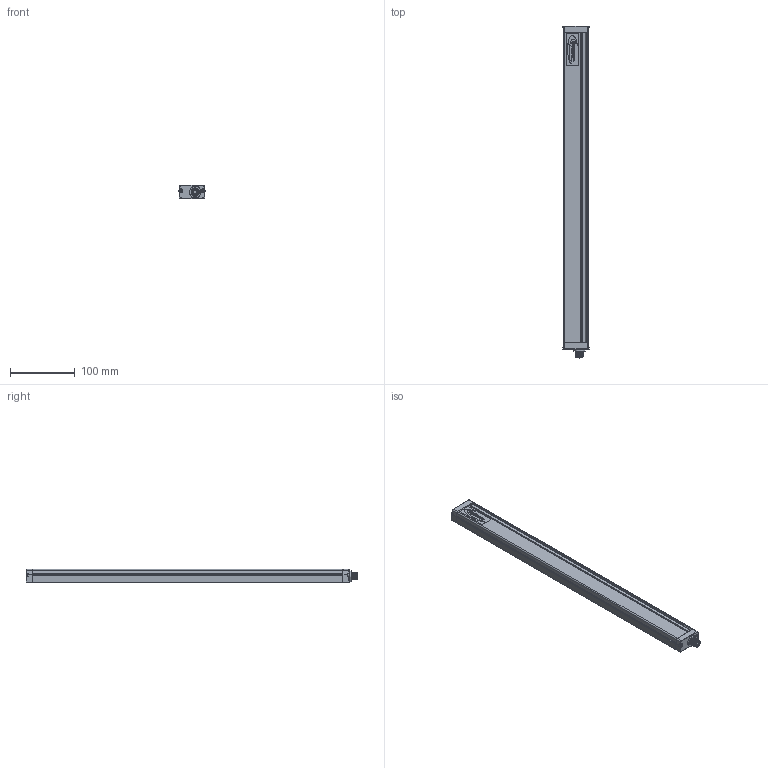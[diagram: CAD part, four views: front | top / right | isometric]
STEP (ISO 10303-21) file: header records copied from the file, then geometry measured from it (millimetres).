
FILE_DESCRIPTION(/* description */ (''),/* implementation_level */ '2;1');
FILE_NAME(/* name */ 'C:\Users\andre\SynologyDrive\Optoscan\Libreria Componenti\00 - Barriere\Barriera sorgente\Argo_480_RX.stp',/* time_stamp */ '2021-04-22T11:53:51+02:00',/* author */ ('andre'),/* organization */ (''),/* preprocessor_version */ 'ST-DEVELOPER v18',/* originating_system */ 'Autodesk Inventor 2020',/* authorisation */ '');
FILE_SCHEMA (('AUTOMOTIVE_DESIGN { 1 0 10303 214 3 1 1 }'));
Length unit declared in the file: millimetre
Products named in the file (1): Argo_480_RX
Bounding box: 40.5 x 513.3 x 20.75 mm (x, y, z)
Volume: 104893.1 mm3; surface area: 134384.7 mm2
Topology: 1 solids, 1 shells, 692 faces, 1898 edges, 1217 vertices
Faces by surface type: plane 319, cylinder 195, bspline 94, torus 70, cone 8, sphere 6
Full cylindrical faces by diameter (mm): 1 x4, 2.459 x4, 2.5 x4, 3 x4, 3.5 x4, 5.5 x4, 8 x1, 10.5 x2, 11.75 x9, 15.7 x1, 17.5 x1
Entity records: 28165 total; most frequent: CARTESIAN_POINT 10195, ORIENTED_EDGE 3778, DIRECTION 3387, EDGE_CURVE 1889, VERTEX_POINT 1217, AXIS2_PLACEMENT_3D 1183, LINE 1021, VECTOR 1021
